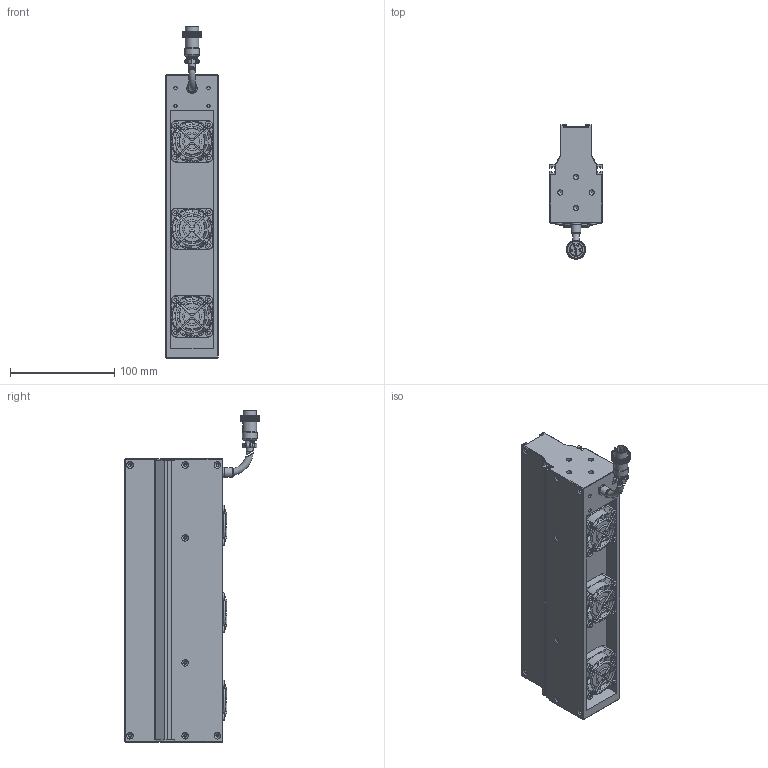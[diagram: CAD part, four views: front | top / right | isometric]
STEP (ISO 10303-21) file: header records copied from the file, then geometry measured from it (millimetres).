
FILE_DESCRIPTION (( 'STEP AP203' ), '1' );
FILE_NAME ('OPT-LSS272-W-V3.1U尨砩芞.STEP', '2025-01-21T00:17:46', ( 'USER' ), ( '' ), 'SwSTEP 2.0', 'SolidWorks 2016', '' );
FILE_SCHEMA (( 'CONFIG_CONTROL_DESIGN' ));
Length unit declared in the file: millimetre
Products named in the file (2): OPT-LSS272-W-V3.1U尨砩芞
Bounding box: 50 x 129.15 x 318.83 mm (x, y, z)
Volume: 929370.9 mm3; surface area: 170409.4 mm2
Topology: 18 solids, 26 shells, 3932 faces, 8716 edges, 4917 vertices
Faces by surface type: bspline 2140, cylinder 828, plane 742, torus 173, cone 49
Full cylindrical faces by diameter (mm): 0.95 x6, 1.1 x2, 1.4 x2, 1.6 x12, 2 x7, 2.5 x16, 3.2 x16, 3.4 x16, 4 x4, 5 x8, 6.2 x12, 6.4 x3, 7.5 x1, 8.6 x1, 9.3 x1, 9.8 x1, 10 x1, 13.2 x1, 14 x1, 16.1 x1, 24.8 x3, 38 x3
Entity records: 132208 total; most frequent: CARTESIAN_POINT 65698, ORIENTED_EDGE 16808, EDGE_CURVE 8404, DIRECTION 7116, B_SPLINE_CURVE_WITH_KNOTS 5729, VERTEX_POINT 4846, EDGE_LOOP 4286, FACE_OUTER_BOUND 4112
